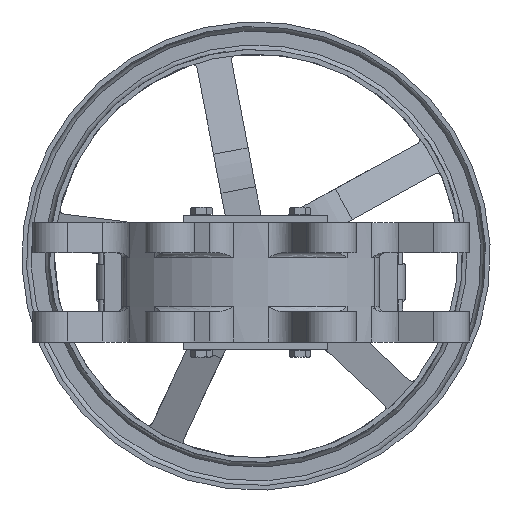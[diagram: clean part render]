
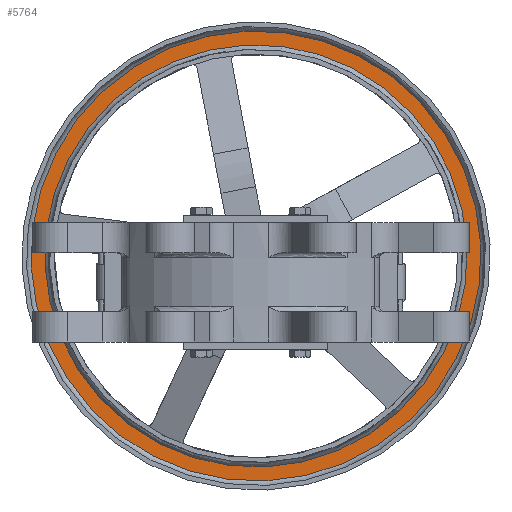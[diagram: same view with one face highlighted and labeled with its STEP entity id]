
A CAD part, front view. The second image highlights one B-rep face of the part: STEP entity #5764.
In plain terms, the highlighted planar face has unit normal (0, -1, 0).
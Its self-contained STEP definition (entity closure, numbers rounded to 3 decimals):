
#5764=ADVANCED_FACE('',(#14444,#14446),#14448,.F.);
#14444=FACE_BOUND('',#14445,.T.);
#14445=EDGE_LOOP('',(#18786));
#14446=FACE_BOUND('',#14447,.T.);
#14447=EDGE_LOOP('',(#18787));
#14448=PLANE('',#14449);
#14449=AXIS2_PLACEMENT_3D('',#14450,#14451,#14452);
#14450=CARTESIAN_POINT('',(-86.544,314.,22.445));
#14451=DIRECTION('',(0.,1.,0.));
#14452=DIRECTION('',(0.992,0.,-0.125));
#18786=ORIENTED_EDGE('',*,*,#20995,.F.);
#18787=ORIENTED_EDGE('',*,*,#20914,.T.);
#20914=EDGE_CURVE('',#24304,#24304,#24305,.T.);
#20995=EDGE_CURVE('',#24448,#24448,#24449,.F.);
#24304=VERTEX_POINT('',#44924);
#24305=CIRCLE('',#44925,90.123);
#24448=VERTEX_POINT('',#45253);
#24449=CIRCLE('',#45254,96.061);
#44924=CARTESIAN_POINT('',(-87.15,314.,22.522));
#44925=AXIS2_PLACEMENT_3D('',#44926,#44927,#44928);
#44926=CARTESIAN_POINT('',(2.262,314.,11.214));
#44927=DIRECTION('',(0.,1.,0.));
#44928=DIRECTION('',(-0.992,0.,0.125));
#45253=CARTESIAN_POINT('',(-93.041,314.,23.267));
#45254=AXIS2_PLACEMENT_3D('',#45255,#45256,#45257);
#45255=CARTESIAN_POINT('',(2.262,314.,11.214));
#45256=DIRECTION('',(0.,-1.,0.));
#45257=DIRECTION('',(-0.992,0.,0.125));
